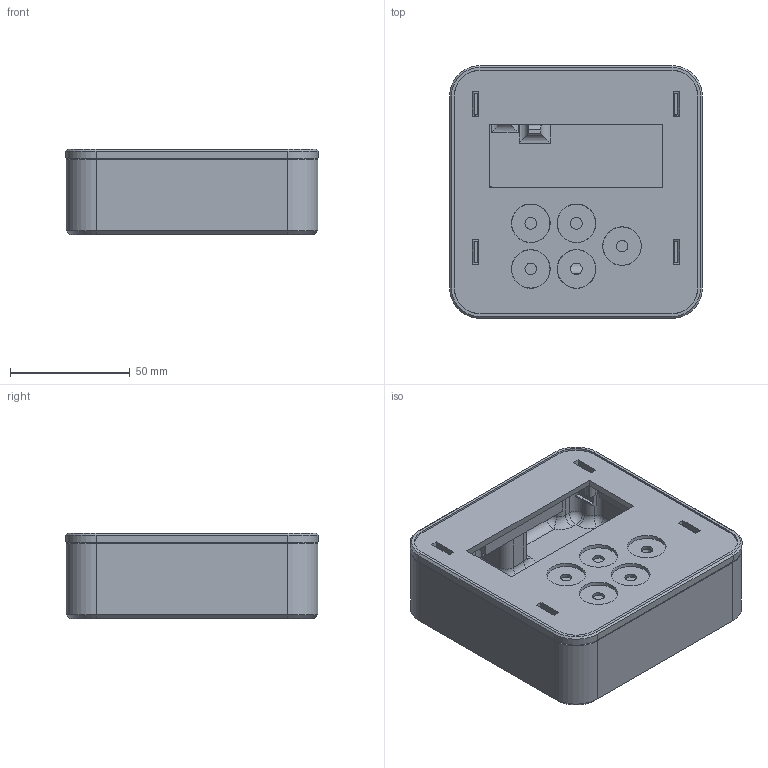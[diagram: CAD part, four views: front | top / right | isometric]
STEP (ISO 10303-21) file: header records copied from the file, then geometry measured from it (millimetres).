
FILE_DESCRIPTION(/* description */ (''),/* implementation_level */ '2;1');
FILE_NAME(/* name */ 'S:\Data\3D_drawings\working\fusion micro large frame\cad block\website\remote display.stp',/* time_stamp */ '2016-11-03T07:31:12-05:00',/* author */ ('PaulD'),/* organization */ (''),/* preprocessor_version */ 'ST-DEVELOPER v16.5',/* originating_system */ 'Autodesk Inventor 2017',/* authorisation */ '');
FILE_SCHEMA (('AUTOMOTIVE_DESIGN { 1 0 10303 214 3 1 1 }'));
Length unit declared in the file: inch
Products named in the file (4): 3001112d; 3001099; 3001187; 3001222Dsideretention
Assembly tree (3 placements, depth 2):
  3001112d
    3001099
    3001187
    3001222Dsideretention
Bounding box: 105.56 x 105.56 x 35.69 mm (x, y, z)
Volume: 134236.9 mm3; surface area: 86801.9 mm2
Topology: 3 solids, 3 shells, 1334 faces, 3495 edges, 2283 vertices
Faces by surface type: plane 748, bspline 391, cone 88, cylinder 86, torus 17, sphere 4
Full cylindrical faces by diameter (mm): 3.962 x1, 4.318 x4, 7.925 x4, 10.668 x1, 12.7 x1
Entity records: 45068 total; most frequent: CARTESIAN_POINT 14751, ORIENTED_EDGE 6850, DIRECTION 4874, EDGE_CURVE 3425, LINE 2302, VECTOR 2302, VERTEX_POINT 2273, EDGE_LOOP 1540
